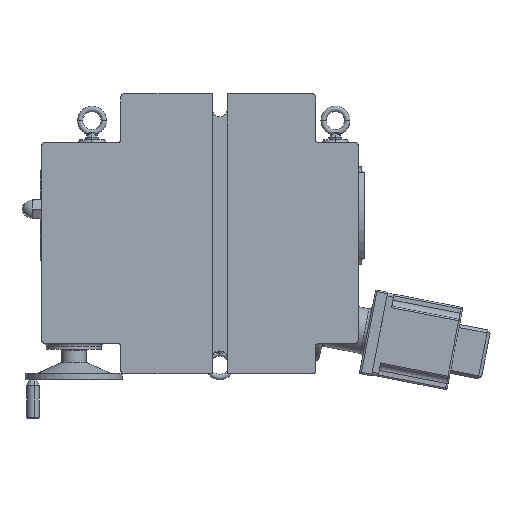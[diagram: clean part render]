
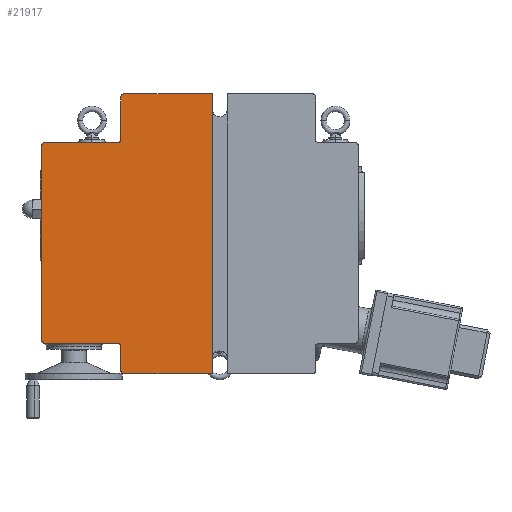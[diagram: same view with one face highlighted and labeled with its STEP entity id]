
A CAD part, front view. The second image highlights one B-rep face of the part: STEP entity #21917.
In plain terms, the highlighted planar face has unit normal (0, -1, 0).
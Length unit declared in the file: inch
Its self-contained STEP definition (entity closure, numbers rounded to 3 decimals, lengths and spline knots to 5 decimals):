
#1090 = EDGE_CURVE ( 'NONE', #18682, #18665, #17263, .T. ) ;
#1091 = EDGE_CURVE ( 'NONE', #18684, #18695, #17262, .T. ) ;
#1092 = EDGE_CURVE ( 'NONE', #18694, #18695, #17266, .T. ) ;
#1093 = EDGE_CURVE ( 'NONE', #18694, #18647, #17264, .T. ) ;
#1094 = EDGE_CURVE ( 'NONE', #18646, #18627, #17269, .T. ) ;
#1164 = EDGE_CURVE ( 'NONE', #18626, #18633, #17356, .T. ) ;
#1165 = EDGE_CURVE ( 'NONE', #18636, #18687, #17358, .T. ) ;
#1166 = EDGE_CURVE ( 'NONE', #18704, #18687, #17359, .T. ) ;
#1167 = EDGE_CURVE ( 'NONE', #18704, #18679, #17353, .T. ) ;
#1776 = EDGE_CURVE ( 'NONE', #18626, #18627, #3083, .T. ) ;
#1789 = EDGE_CURVE ( 'NONE', #18633, #18636, #3103, .T. ) ;
#1801 = EDGE_CURVE ( 'NONE', #18646, #18647, #3115, .T. ) ;
#1849 = EDGE_CURVE ( 'NONE', #18684, #18665, #3198, .T. ) ;
#1853 = EDGE_CURVE ( 'NONE', #18682, #18679, #3206, .T. ) ;
#3083 = LINE ( 'NONE', #3952, #3085 ) ;
#3085 = VECTOR ( 'NONE', #3953, 39.37008 ) ;
#3103 = LINE ( 'NONE', #3985, #3106 ) ;
#3106 = VECTOR ( 'NONE', #3986, 39.37008 ) ;
#3115 = LINE ( 'NONE', #4007, #3126 ) ;
#3126 = VECTOR ( 'NONE', #4014, 39.37008 ) ;
#3198 = LINE ( 'NONE', #4156, #3201 ) ;
#3201 = VECTOR ( 'NONE', #4157, 39.37008 ) ;
#3206 = LINE ( 'NONE', #4164, #3209 ) ;
#3209 = VECTOR ( 'NONE', #4166, 39.37008 ) ;
#3952 = CARTESIAN_POINT ( 'NONE',  ( -7.3125, 0., 3. ) ) ;
#3953 = DIRECTION ( 'NONE',  ( 0., 0., 1. ) ) ;
#3985 = CARTESIAN_POINT ( 'NONE',  ( -7.3125, 0., -5.25 ) ) ;
#3986 = DIRECTION ( 'NONE',  ( 1., 0., 0. ) ) ;
#4007 = CARTESIAN_POINT ( 'NONE',  ( -7.3125, 0., 3. ) ) ;
#4014 = DIRECTION ( 'NONE',  ( 1., 0., 0. ) ) ;
#4156 = CARTESIAN_POINT ( 'NONE',  ( -4.6875, 0., 5. ) ) ;
#4157 = DIRECTION ( 'NONE',  ( 1., 0., 0. ) ) ;
#4164 = CARTESIAN_POINT ( 'NONE',  ( -4.6875, 0., -6.5 ) ) ;
#4166 = DIRECTION ( 'NONE',  ( -1., 0., 0. ) ) ;
#5334 = CARTESIAN_POINT ( 'NONE',  ( -7.3125, 0., -5.125 ) ) ;
#5335 = CARTESIAN_POINT ( 'NONE',  ( -7.3125, 0., 2.875 ) ) ;
#5341 = CARTESIAN_POINT ( 'NONE',  ( -7.1875, 0., -5.25 ) ) ;
#5344 = CARTESIAN_POINT ( 'NONE',  ( -4.1875, 0., -5.25 ) ) ;
#5354 = CARTESIAN_POINT ( 'NONE',  ( -7.1875, 0., 3. ) ) ;
#5355 = CARTESIAN_POINT ( 'NONE',  ( -4.1875, 0., 3. ) ) ;
#5373 = CARTESIAN_POINT ( 'NONE',  ( -0.3125, 0., 5. ) ) ;
#5387 = CARTESIAN_POINT ( 'NONE',  ( -3.9375, 0., -6.5 ) ) ;
#5390 = CARTESIAN_POINT ( 'NONE',  ( -0.3125, 0., -6.5 ) ) ;
#5392 = CARTESIAN_POINT ( 'NONE',  ( -3.9375, 0., 5. ) ) ;
#5395 = CARTESIAN_POINT ( 'NONE',  ( -4.0625, 0., -5.375 ) ) ;
#5402 = CARTESIAN_POINT ( 'NONE',  ( -4.0625, 0., 3.125 ) ) ;
#5403 = CARTESIAN_POINT ( 'NONE',  ( -4.0625, 0., 4.875 ) ) ;
#5412 = CARTESIAN_POINT ( 'NONE',  ( -4.0625, 0., -6.375 ) ) ;
#6293 = EDGE_LOOP ( 'NONE', ( #6859, #6860, #6861, #6862, #6863, #6864, #6865, #6866, #6867, #6868, #6869, #6870, #6871, #6872 ) ) ;
#6859 = ORIENTED_EDGE ( 'NONE', *, *, #1853, .F. ) ;
#6860 = ORIENTED_EDGE ( 'NONE', *, *, #1090, .T. ) ;
#6861 = ORIENTED_EDGE ( 'NONE', *, *, #1849, .F. ) ;
#6862 = ORIENTED_EDGE ( 'NONE', *, *, #1091, .T. ) ;
#6863 = ORIENTED_EDGE ( 'NONE', *, *, #1092, .F. ) ;
#6864 = ORIENTED_EDGE ( 'NONE', *, *, #1093, .T. ) ;
#6865 = ORIENTED_EDGE ( 'NONE', *, *, #1801, .F. ) ;
#6866 = ORIENTED_EDGE ( 'NONE', *, *, #1094, .T. ) ;
#6867 = ORIENTED_EDGE ( 'NONE', *, *, #1776, .F. ) ;
#6868 = ORIENTED_EDGE ( 'NONE', *, *, #1164, .T. ) ;
#6869 = ORIENTED_EDGE ( 'NONE', *, *, #1789, .T. ) ;
#6870 = ORIENTED_EDGE ( 'NONE', *, *, #1165, .T. ) ;
#6871 = ORIENTED_EDGE ( 'NONE', *, *, #1166, .F. ) ;
#6872 = ORIENTED_EDGE ( 'NONE', *, *, #1167, .T. ) ;
#9719 = FACE_OUTER_BOUND ( 'NONE', #6293, .T. ) ;
#12082 = PLANE ( 'NONE',  #12697 ) ;
#12083 = CARTESIAN_POINT ( 'NONE',  ( 0., 0., 0. ) ) ;
#12088 = DIRECTION ( 'NONE',  ( 0., -1., 0. ) ) ;
#12089 = DIRECTION ( 'NONE',  ( 0., 0., -1. ) ) ;
#12697 = AXIS2_PLACEMENT_3D ( 'NONE', #12083, #12088, #12089 ) ;
#17262 = CIRCLE ( 'NONE', #22263, 0.125 ) ;
#17263 = LINE ( 'NONE', #19397, #17265 ) ;
#17264 = CIRCLE ( 'NONE', #22264, 0.125 ) ;
#17265 = VECTOR ( 'NONE', #19399, 39.37008 ) ;
#17266 = LINE ( 'NONE', #19398, #17268 ) ;
#17268 = VECTOR ( 'NONE', #19382, 39.37008 ) ;
#17269 = CIRCLE ( 'NONE', #22265, 0.125 ) ;
#17353 = CIRCLE ( 'NONE', #22305, 0.125 ) ;
#17356 = CIRCLE ( 'NONE', #22303, 0.125 ) ;
#17358 = CIRCLE ( 'NONE', #22304, 0.125 ) ;
#17359 = LINE ( 'NONE', #19661, #17361 ) ;
#17361 = VECTOR ( 'NONE', #19662, 39.37008 ) ;
#18626 = VERTEX_POINT ( 'NONE', #5334 ) ;
#18627 = VERTEX_POINT ( 'NONE', #5335 ) ;
#18633 = VERTEX_POINT ( 'NONE', #5341 ) ;
#18636 = VERTEX_POINT ( 'NONE', #5344 ) ;
#18646 = VERTEX_POINT ( 'NONE', #5354 ) ;
#18647 = VERTEX_POINT ( 'NONE', #5355 ) ;
#18665 = VERTEX_POINT ( 'NONE', #5373 ) ;
#18679 = VERTEX_POINT ( 'NONE', #5387 ) ;
#18682 = VERTEX_POINT ( 'NONE', #5390 ) ;
#18684 = VERTEX_POINT ( 'NONE', #5392 ) ;
#18687 = VERTEX_POINT ( 'NONE', #5395 ) ;
#18694 = VERTEX_POINT ( 'NONE', #5402 ) ;
#18695 = VERTEX_POINT ( 'NONE', #5403 ) ;
#18704 = VERTEX_POINT ( 'NONE', #5412 ) ;
#19382 = DIRECTION ( 'NONE',  ( 0., 0., 1. ) ) ;
#19397 = CARTESIAN_POINT ( 'NONE',  ( -0.3125, 0., 5.625 ) ) ;
#19398 = CARTESIAN_POINT ( 'NONE',  ( -4.0625, 0., 0. ) ) ;
#19399 = DIRECTION ( 'NONE',  ( 0., 0., 1. ) ) ;
#19400 = CARTESIAN_POINT ( 'NONE',  ( -3.9375, 0., 4.875 ) ) ;
#19401 = DIRECTION ( 'NONE',  ( 0., -1., 0. ) ) ;
#19402 = DIRECTION ( 'NONE',  ( 0., 0., -1. ) ) ;
#19404 = CARTESIAN_POINT ( 'NONE',  ( -4.1875, 0., 3.125 ) ) ;
#19405 = DIRECTION ( 'NONE',  ( 0., 1., 0. ) ) ;
#19406 = DIRECTION ( 'NONE',  ( 0., 0., -1. ) ) ;
#19408 = CARTESIAN_POINT ( 'NONE',  ( -7.1875, 0., 2.875 ) ) ;
#19409 = DIRECTION ( 'NONE',  ( 0., -1., 0. ) ) ;
#19410 = DIRECTION ( 'NONE',  ( 0., 0., -1. ) ) ;
#19661 = CARTESIAN_POINT ( 'NONE',  ( -4.0625, 0., 0. ) ) ;
#19662 = DIRECTION ( 'NONE',  ( 0., 0., 1. ) ) ;
#19663 = CARTESIAN_POINT ( 'NONE',  ( -7.1875, 0., -5.125 ) ) ;
#19664 = DIRECTION ( 'NONE',  ( 0., -1., 0. ) ) ;
#19665 = DIRECTION ( 'NONE',  ( 0., 0., -1. ) ) ;
#19666 = CARTESIAN_POINT ( 'NONE',  ( -4.1875, 0., -5.375 ) ) ;
#19667 = DIRECTION ( 'NONE',  ( 0., 1., 0. ) ) ;
#19668 = DIRECTION ( 'NONE',  ( 0., 0., -1. ) ) ;
#19669 = CARTESIAN_POINT ( 'NONE',  ( -3.9375, 0., -6.375 ) ) ;
#19670 = DIRECTION ( 'NONE',  ( 0., -1., 0. ) ) ;
#19671 = DIRECTION ( 'NONE',  ( 0., 0., -1. ) ) ;
#21917 = ADVANCED_FACE ( 'NONE', ( #9719 ), #12082, .T. ) ;
#22263 = AXIS2_PLACEMENT_3D ( 'NONE', #19400, #19401, #19402 ) ;
#22264 = AXIS2_PLACEMENT_3D ( 'NONE', #19404, #19405, #19406 ) ;
#22265 = AXIS2_PLACEMENT_3D ( 'NONE', #19408, #19409, #19410 ) ;
#22303 = AXIS2_PLACEMENT_3D ( 'NONE', #19663, #19664, #19665 ) ;
#22304 = AXIS2_PLACEMENT_3D ( 'NONE', #19666, #19667, #19668 ) ;
#22305 = AXIS2_PLACEMENT_3D ( 'NONE', #19669, #19670, #19671 ) ;
